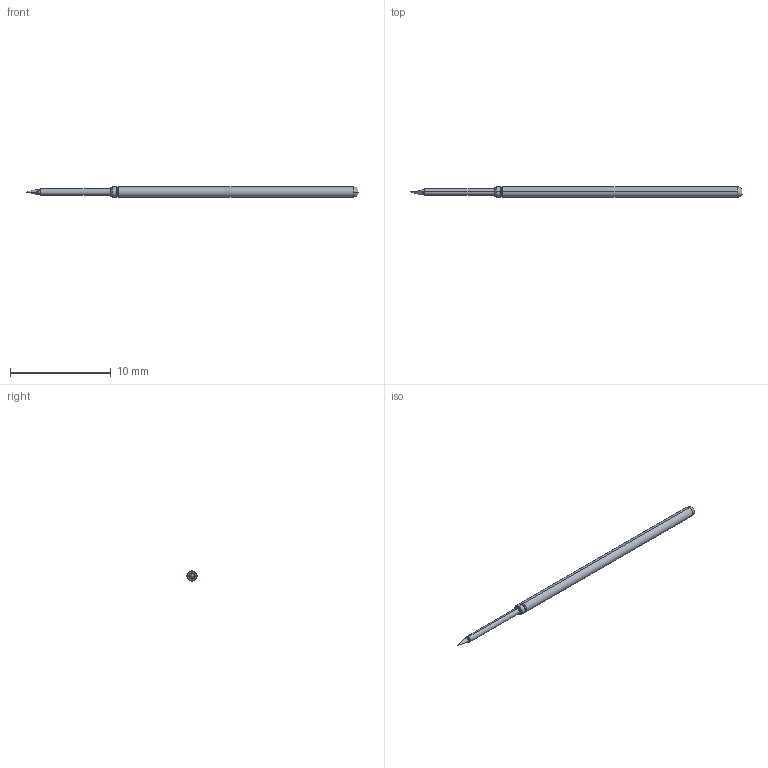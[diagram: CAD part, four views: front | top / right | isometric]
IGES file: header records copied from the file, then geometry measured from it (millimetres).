
Start section: SolidWorks IGES file using analytic representation for surfaces
Global section: file name: Z:\probe solid model mockups\Solidworks models\Parts\LFRE-1T1.IGS; native system: SolidWorks 2016; preprocessor: SolidWorks 2016; author: mlee; date: 180927.163849; units: inch
Bounding box: 33.02 x 1.02 x 1.02 mm (x, y, z)
Surface area: 94 mm2 (no closed solid volume)
Topology: 0 solids, 0 shells, 28 faces, 178 edges, 178 vertices
Faces by surface type: revolution 16, bspline 12
